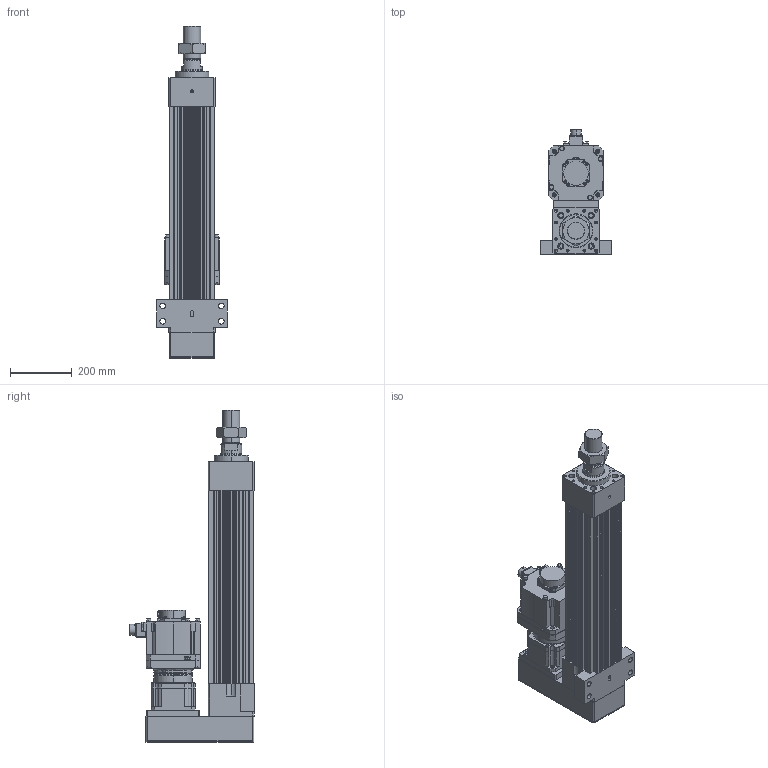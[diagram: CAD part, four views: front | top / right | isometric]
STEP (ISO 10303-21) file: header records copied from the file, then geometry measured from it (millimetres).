
FILE_DESCRIPTION (( 'STEP AP203' ), '1' );
FILE_NAME ('HES150NS(HS)-P350-W035G00-M-FFC.STEP', '2023-01-31T09:37:27', ( 'tms' ), ( '' ), 'SwSTEP 2.0', 'SolidWorks 2013', '' );
FILE_SCHEMA (( 'CONFIG_CONTROL_DESIGN' ));
Length unit declared in the file: millimetre
Products named in the file (9): HES150-P350-G142-FFC; AB1421; P0403500801; M56X2.0P; P1301500001; HG-SR352; AB142-003[HG-SR352]; HES150 ROD M ST350; HES150NS(HS)-P350-W035G00-M-FFC
Assembly tree (8 placements, depth 3):
  HES150NS(HS)-P350-W035G00-M-FFC
    HES150-P350-G142-FFC
    HES150 ROD M ST350
    M56X2.0P
    AB142-003[HG-SR352]
      AB1421
      P1301500001
      P0403500801
    HG-SR352
Bounding box: 230 x 403.85 x 1076 mm (x, y, z)
Volume: 18715180.7 mm3; surface area: 1827781 mm2
Topology: 4 solids, 18 shells, 1470 faces, 3831 edges, 2471 vertices
Faces by surface type: cylinder 693, plane 529, cone 166, bspline 76, torus 6
Entity records: 53945 total; most frequent: CARTESIAN_POINT 16549, DIRECTION 7839, ORIENTED_EDGE 7520, EDGE_CURVE 3782, AXIS2_PLACEMENT_3D 2986, VERTEX_POINT 2471, VECTOR 1867, LINE 1867
